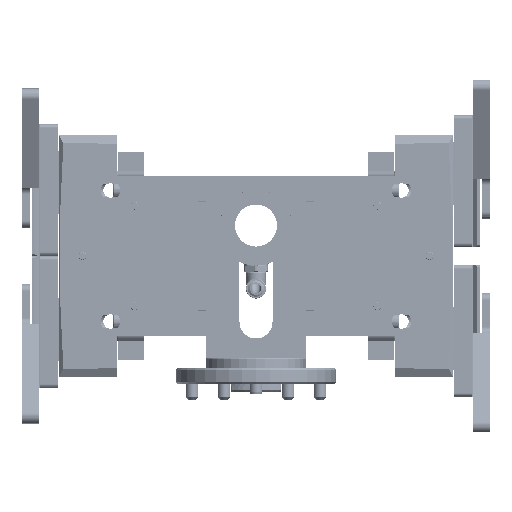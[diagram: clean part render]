
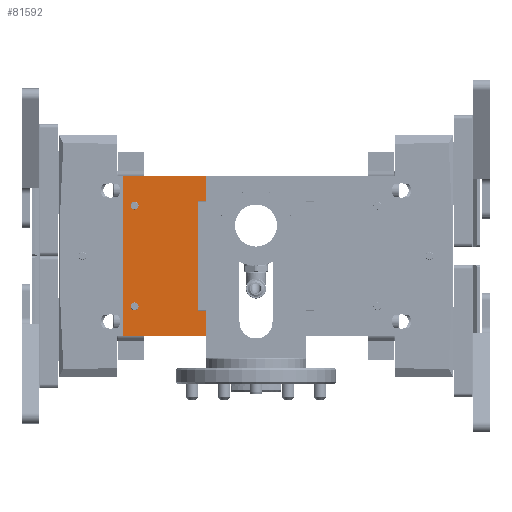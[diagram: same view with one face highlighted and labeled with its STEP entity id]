
A CAD part, front view. The second image highlights one B-rep face of the part: STEP entity #81592.
In plain terms, the highlighted planar face has unit normal (0, -1, 0) as drawn and (0, 0, -1) by its records, which use the part's own axes.
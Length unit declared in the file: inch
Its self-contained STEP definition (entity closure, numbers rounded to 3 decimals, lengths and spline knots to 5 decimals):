
#5834 = DIRECTION ( 'NONE',  ( -1., 0., 0. ) ) ;
#7555 = VERTEX_POINT ( 'NONE', #26543 ) ;
#10692 = VERTEX_POINT ( 'NONE', #63680 ) ;
#13476 = CARTESIAN_POINT ( 'NONE',  ( -1.34449, 0.21654, -1.17717 ) ) ;
#14367 = EDGE_CURVE ( 'NONE', #140267, #10692, #136910, .T. ) ;
#17596 = EDGE_CURVE ( 'NONE', #139491, #162259, #111331, .T. ) ;
#18068 = ORIENTED_EDGE ( 'NONE', *, *, #139426, .F. ) ;
#21704 = AXIS2_PLACEMENT_3D ( 'NONE', #62865, #52007, #5834 ) ;
#23661 = DIRECTION ( 'NONE',  ( -1., 0., 0. ) ) ;
#24134 = VERTEX_POINT ( 'NONE', #115354 ) ;
#26543 = CARTESIAN_POINT ( 'NONE',  ( -1.33858, 1.77165, -1.17717 ) ) ;
#26682 = DIRECTION ( 'NONE',  ( 0., -1., 0. ) ) ;
#27254 = CARTESIAN_POINT ( 'NONE',  ( -1.24016, 1.77165, -1.17717 ) ) ;
#27261 = CARTESIAN_POINT ( 'NONE',  ( 1.9685, 2.04724, -1.17717 ) ) ;
#28269 = FACE_BOUND ( 'NONE', #120599, .T. ) ;
#28529 = ORIENTED_EDGE ( 'NONE', *, *, #17596, .T. ) ;
#28549 = VECTOR ( 'NONE', #53401, 39.37008 ) ;
#35306 = CIRCLE ( 'NONE', #85521, 0.09843 ) ;
#36863 = DIRECTION ( 'NONE',  ( 0., 0., 1. ) ) ;
#37924 = VERTEX_POINT ( 'NONE', #95846 ) ;
#44739 = ORIENTED_EDGE ( 'NONE', *, *, #63506, .T. ) ;
#47859 = CARTESIAN_POINT ( 'NONE',  ( 1.33858, 1.77165, -1.17717 ) ) ;
#52007 = DIRECTION ( 'NONE',  ( 0., 0., 1. ) ) ;
#53401 = DIRECTION ( 'NONE',  ( 0., 1., 0. ) ) ;
#53532 = CARTESIAN_POINT ( 'NONE',  ( 1.34449, 0.21654, -1.17717 ) ) ;
#53730 = DIRECTION ( 'NONE',  ( -1., 0., 0. ) ) ;
#56198 = CARTESIAN_POINT ( 'NONE',  ( 1.34449, 0., -1.17717 ) ) ;
#62865 = CARTESIAN_POINT ( 'NONE',  ( 1.24016, 1.77165, -1.17717 ) ) ;
#63506 = EDGE_CURVE ( 'NONE', #95048, #160501, #106380, .T. ) ;
#63680 = CARTESIAN_POINT ( 'NONE',  ( -1.9685, 2.04724, -1.17717 ) ) ;
#70519 = DIRECTION ( 'NONE',  ( 0., -1., 0. ) ) ;
#73378 = AXIS2_PLACEMENT_3D ( 'NONE', #111511, #36863, #184296 ) ;
#74230 = VECTOR ( 'NONE', #70519, 39.37008 ) ;
#78061 = EDGE_CURVE ( 'NONE', #37924, #7555, #86852, .T. ) ;
#79081 = VECTOR ( 'NONE', #123235, 39.37008 ) ;
#80231 = VECTOR ( 'NONE', #179511, 39.37008 ) ;
#81592 = ADVANCED_FACE ( 'NONE', ( #162881, #146245, #28269 ), #164807, .T. ) ;
#81662 = LINE ( 'NONE', #82644, #171424 ) ;
#82644 = CARTESIAN_POINT ( 'NONE',  ( 1.9685, 0., -1.17717 ) ) ;
#85521 = AXIS2_PLACEMENT_3D ( 'NONE', #180543, #103932, #161013 ) ;
#86255 = LINE ( 'NONE', #27261, #80231 ) ;
#86852 = CIRCLE ( 'NONE', #127669, 0.09843 ) ;
#87210 = DIRECTION ( 'NONE',  ( 0., 0., 1. ) ) ;
#87345 = EDGE_CURVE ( 'NONE', #7555, #37924, #139324, .T. ) ;
#89188 = DIRECTION ( 'NONE',  ( -1., 0., 0. ) ) ;
#95048 = VERTEX_POINT ( 'NONE', #147207 ) ;
#95846 = CARTESIAN_POINT ( 'NONE',  ( -1.14173, 1.77165, -1.17717 ) ) ;
#97511 = ORIENTED_EDGE ( 'NONE', *, *, #87345, .T. ) ;
#99946 = LINE ( 'NONE', #174625, #74230 ) ;
#102834 = CARTESIAN_POINT ( 'NONE',  ( -1.34449, 0., -1.17717 ) ) ;
#103932 = DIRECTION ( 'NONE',  ( 0., 0., 1. ) ) ;
#104474 = DIRECTION ( 'NONE',  ( -1., 0., 0. ) ) ;
#106380 = CIRCLE ( 'NONE', #21704, 0.09843 ) ;
#111331 = LINE ( 'NONE', #153643, #79081 ) ;
#111511 = CARTESIAN_POINT ( 'NONE',  ( -1.24016, 1.77165, -1.17717 ) ) ;
#113730 = AXIS2_PLACEMENT_3D ( 'NONE', #194306, #148159, #89188 ) ;
#115354 = CARTESIAN_POINT ( 'NONE',  ( 1.34449, 0., -1.17717 ) ) ;
#118125 = ORIENTED_EDGE ( 'NONE', *, *, #78061, .T. ) ;
#118184 = VERTEX_POINT ( 'NONE', #53532 ) ;
#118697 = EDGE_CURVE ( 'NONE', #118184, #24134, #173122, .T. ) ;
#120599 = EDGE_LOOP ( 'NONE', ( #97511, #118125 ) ) ;
#121635 = VERTEX_POINT ( 'NONE', #13476 ) ;
#122368 = CARTESIAN_POINT ( 'NONE',  ( -1.9685, 0., -1.17717 ) ) ;
#123235 = DIRECTION ( 'NONE',  ( -1., 0., 0. ) ) ;
#123887 = EDGE_CURVE ( 'NONE', #139491, #121635, #187965, .T. ) ;
#124130 = EDGE_LOOP ( 'NONE', ( #44739, #134116 ) ) ;
#127547 = EDGE_CURVE ( 'NONE', #160501, #95048, #35306, .T. ) ;
#127669 = AXIS2_PLACEMENT_3D ( 'NONE', #27254, #87210, #173717 ) ;
#134116 = ORIENTED_EDGE ( 'NONE', *, *, #127547, .T. ) ;
#135931 = CARTESIAN_POINT ( 'NONE',  ( -1.9685, 2.04724, -1.17717 ) ) ;
#136910 = LINE ( 'NONE', #135931, #159607 ) ;
#138074 = ORIENTED_EDGE ( 'NONE', *, *, #14367, .F. ) ;
#138129 = VERTEX_POINT ( 'NONE', #152445 ) ;
#139015 = VECTOR ( 'NONE', #26682, 39.37008 ) ;
#139324 = CIRCLE ( 'NONE', #73378, 0.09843 ) ;
#139426 = EDGE_CURVE ( 'NONE', #10692, #162259, #99946, .T. ) ;
#139491 = VERTEX_POINT ( 'NONE', #102834 ) ;
#140151 = ORIENTED_EDGE ( 'NONE', *, *, #123887, .F. ) ;
#140267 = VERTEX_POINT ( 'NONE', #162956 ) ;
#140457 = VECTOR ( 'NONE', #53730, 39.37008 ) ;
#142930 = EDGE_CURVE ( 'NONE', #138129, #24134, #81662, .T. ) ;
#144361 = EDGE_CURVE ( 'NONE', #118184, #121635, #145074, .T. ) ;
#144743 = CARTESIAN_POINT ( 'NONE',  ( -1.34449, 0.21654, -1.17717 ) ) ;
#145074 = LINE ( 'NONE', #190233, #140457 ) ;
#146245 = FACE_BOUND ( 'NONE', #124130, .T. ) ;
#147207 = CARTESIAN_POINT ( 'NONE',  ( 1.14173, 1.77165, -1.17717 ) ) ;
#148159 = DIRECTION ( 'NONE',  ( 0., 0., -1. ) ) ;
#152445 = CARTESIAN_POINT ( 'NONE',  ( 1.9685, 0., -1.17717 ) ) ;
#153643 = CARTESIAN_POINT ( 'NONE',  ( -1.34449, 0., -1.17717 ) ) ;
#159607 = VECTOR ( 'NONE', #104474, 39.37008 ) ;
#160501 = VERTEX_POINT ( 'NONE', #47859 ) ;
#161013 = DIRECTION ( 'NONE',  ( -1., 0., 0. ) ) ;
#161370 = EDGE_CURVE ( 'NONE', #138129, #140267, #86255, .T. ) ;
#161610 = ORIENTED_EDGE ( 'NONE', *, *, #144361, .T. ) ;
#162259 = VERTEX_POINT ( 'NONE', #122368 ) ;
#162881 = FACE_OUTER_BOUND ( 'NONE', #174090, .T. ) ;
#162956 = CARTESIAN_POINT ( 'NONE',  ( 1.9685, 2.04724, -1.17717 ) ) ;
#164807 = PLANE ( 'NONE',  #113730 ) ;
#171138 = ORIENTED_EDGE ( 'NONE', *, *, #161370, .F. ) ;
#171424 = VECTOR ( 'NONE', #23661, 39.37008 ) ;
#173122 = LINE ( 'NONE', #56198, #139015 ) ;
#173717 = DIRECTION ( 'NONE',  ( -1., 0., 0. ) ) ;
#174090 = EDGE_LOOP ( 'NONE', ( #180780, #189949, #161610, #140151, #28529, #18068, #138074, #171138 ) ) ;
#174625 = CARTESIAN_POINT ( 'NONE',  ( -1.9685, 0., -1.17717 ) ) ;
#179511 = DIRECTION ( 'NONE',  ( 0., 1., 0. ) ) ;
#180543 = CARTESIAN_POINT ( 'NONE',  ( 1.24016, 1.77165, -1.17717 ) ) ;
#180780 = ORIENTED_EDGE ( 'NONE', *, *, #142930, .T. ) ;
#184296 = DIRECTION ( 'NONE',  ( -1., 0., 0. ) ) ;
#187965 = LINE ( 'NONE', #144743, #28549 ) ;
#189949 = ORIENTED_EDGE ( 'NONE', *, *, #118697, .F. ) ;
#190233 = CARTESIAN_POINT ( 'NONE',  ( 1.34449, 0.21654, -1.17717 ) ) ;
#194306 = CARTESIAN_POINT ( 'NONE',  ( 1.9685, 0., -1.17717 ) ) ;
